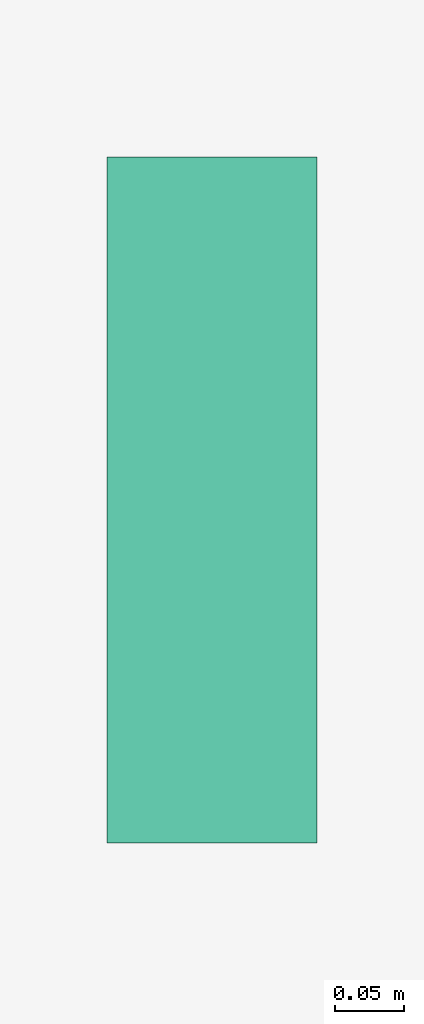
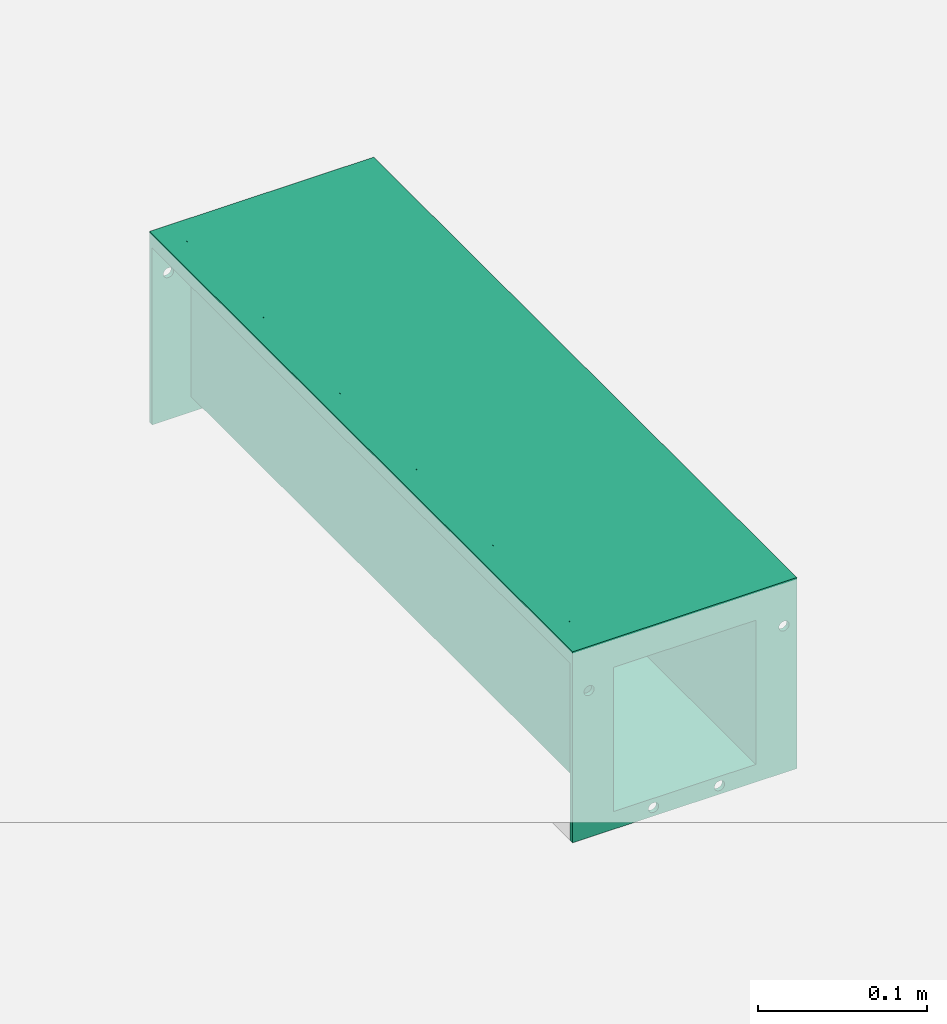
# One storey, part 2 of 2: 1 flow terminal.
"""IFC2X3 building model written with IfcOpenShell, lengths in millimetres."""

from ifc_helpers import new_model, entity, si_unit, converted_unit, direction, frame, frame_2d, origin, origin_2d_with_axis, place, context, subcontext, project, spatial, polyline, circle_curve, parameter, trimmed, segment, composite_curve, rectangle, outline, extrude, source, transform, mapped, material, material_list, element, save


model = new_model("IFC2X3")

# Units and contexts
model_context = context("Model", 3, precision=1e-06, world=origin(), true_north=direction((2.0, 6.12303176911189e-17, 1.0)))
context_of_model = context(None, 3, precision=1e-06, world=origin(), true_north=direction((2.0, 6.12303176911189e-17, 1.0)))
body_context = subcontext(model_context, "Body", "Model", "MODEL_VIEW")
ifc_project = project(units=[si_unit("LENGTHUNIT", "METRE", prefix="MILLI"), si_unit("AREAUNIT", "SQUARE_METRE", prefix="MILLI"), si_unit("VOLUMEUNIT", "CUBIC_METRE", prefix="MILLI"), converted_unit("PLANEANGLEUNIT", "DEGREE", entity("IfcRatioMeasure", 0.0174532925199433), si_unit("PLANEANGLEUNIT", "RADIAN"), dimensions=[0, 0, 0, 0, 0, 0, 0]), si_unit("TIMEUNIT", "SECOND")], contexts=[model_context, context_of_model])

# Site, building, storey
site_placement = place(None, origin())
site = spatial("IfcSite", under=ifc_project, at=site_placement, Name="Default", CompositionType="ELEMENT")
building_placement = place(site_placement, origin())
building = spatial("IfcBuilding", under=site, at=building_placement, CompositionType="ELEMENT")
storey_placement = place(building_placement, origin())
storey = spatial("IfcBuildingStorey", under=building, at=storey_placement, Name="Level 1", CompositionType="ELEMENT", Elevation=0.0)

# Flow terminal
ifc_material_1 = material(Name="Stainless Steel AISI 304")
ifc_material_2 = material(Name="Polystyrene, High Impact (F)")
ifc_material_list = material_list([ifc_material_1, ifc_material_2])
shared_shape = source(origin(), body_context, "Body", "SweptSolid", [
    extrude(rectangle(XDim=500.0, YDim=124.999917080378, at=origin_2d_with_axis()), frame((4.14598109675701e-05, 250.0, -21.0), z_axis=(0.0, 0.0, 1.0), x_axis=(0.0, 1.0, 0.0)), (0.0, 0.0, 1.0), 20.9999999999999),
    extrude(outline(polyline([(-76.5000276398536, -50.8000000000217), (-62.4999447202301, -50.8000000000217), (-62.4999447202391, -29.8000000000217), (-48.499944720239, -29.8000000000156), (-48.4999447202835, 74.1999999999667), (48.4999723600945, 74.2000000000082), (48.499972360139, -29.7999999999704), (62.4999723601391, -29.7999999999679), (62.4999723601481, -50.7999999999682), (76.4999723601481, -50.7999999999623), (76.4999723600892, 87.0), (-76.5000276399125, 87.0), (-76.5000276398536, -50.8000000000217)]), holes=[composite_curve([segment(trimmed(circle_curve(frame_2d((67.7349848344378, -18.9014274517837), x_axis=(1.0, 0.0)), 3.5), [parameter(0.0)], [parameter(180.0)], True, "PARAMETER"), False, "CONTINUOUS"), segment(trimmed(circle_curve(frame_2d((67.7349848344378, -18.9014274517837), x_axis=(1.0, 0.0)), 3.5), [parameter(180.0)], [parameter(360.0)], True, "PARAMETER"), False, "CONTINUOUS")], self_intersect=False), composite_curve([segment(trimmed(circle_curve(frame_2d((23.7349848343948, 80.9218749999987), x_axis=(1.0, 0.0)), 3.5), [parameter(0.0)], [parameter(180.0)], True, "PARAMETER"), False, "CONTINUOUS"), segment(trimmed(circle_curve(frame_2d((23.7349848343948, 80.9218749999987), x_axis=(1.0, 0.0)), 3.5), [parameter(180.0)], [parameter(360.0)], True, "PARAMETER"), False, "CONTINUOUS")], self_intersect=False), composite_curve([segment(trimmed(circle_curve(frame_2d((-21.2650151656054, 80.9218749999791), x_axis=(1.0, 0.0)), 3.5), [parameter(180.0)], [parameter(360.0)], True, "PARAMETER"), False, "CONTINUOUS"), segment(trimmed(circle_curve(frame_2d((-21.2650151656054, 80.9218749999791), x_axis=(1.0, 0.0)), 3.5), [parameter(360.0)], [parameter(180.0)], True, "PARAMETER"), False, "CONTINUOUS")], self_intersect=False), composite_curve([segment(trimmed(circle_curve(frame_2d((-65.2650151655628, -18.9014274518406), x_axis=(1.0, 0.0)), 3.5), [parameter(179.999999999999)], [parameter(360.0)], True, "PARAMETER"), False, "CONTINUOUS"), segment(trimmed(circle_curve(frame_2d((-65.2650151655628, -18.9014274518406), x_axis=(1.0, 0.0)), 3.5), [parameter(0.0)], [parameter(180.0)], True, "PARAMETER"), False, "CONTINUOUS")], self_intersect=False)]), frame((2.7639875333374e-05, 497.0, -50.8000000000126), z_axis=(0.0, 1.0, 0.0), x_axis=(1.0, 0.0, 0.0)), (0.0, 0.0, 1.0), 2.99999999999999),
    extrude(outline(polyline([(-76.499958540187, -50.80000137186), (-62.4999585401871, -50.80000137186), (-62.4999585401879, -29.8000013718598), (-48.4999585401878, -29.8000013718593), (-48.499958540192, 74.1999986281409), (48.499958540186, 74.1999986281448), (48.4999585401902, -29.8000013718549), (62.4999585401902, -29.8000013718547), (62.4999585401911, -50.800001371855), (76.4999585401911, -50.8000013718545), (76.4999585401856, 87.0000068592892), (-76.4999585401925, 87.0000068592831), (-76.499958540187, -50.80000137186)]), holes=[composite_curve([segment(trimmed(circle_curve(frame_2d((67.7349710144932, -18.9014288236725), x_axis=(1.0, 0.0)), 3.5), [parameter(0.0)], [parameter(180.0)], True, "PARAMETER"), False, "CONTINUOUS"), segment(trimmed(circle_curve(frame_2d((67.7349710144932, -18.9014288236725), x_axis=(1.0, 0.0)), 3.5), [parameter(180.0)], [parameter(360.0)], True, "PARAMETER"), False, "CONTINUOUS")], self_intersect=False), composite_curve([segment(trimmed(circle_curve(frame_2d((23.7349710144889, 80.9218818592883), x_axis=(1.0, 0.0)), 3.5), [parameter(0.0)], [parameter(180.0)], True, "PARAMETER"), False, "CONTINUOUS"), segment(trimmed(circle_curve(frame_2d((23.7349710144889, 80.9218818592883), x_axis=(1.0, 0.0)), 3.5), [parameter(180.0)], [parameter(359.999999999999)], True, "PARAMETER"), False, "CONTINUOUS")], self_intersect=False), composite_curve([segment(trimmed(circle_curve(frame_2d((-21.2650289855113, 80.9218818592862), x_axis=(1.0, 0.0)), 3.5), [parameter(180.0)], [parameter(360.0)], True, "PARAMETER"), False, "CONTINUOUS"), segment(trimmed(circle_curve(frame_2d((-21.2650289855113, 80.9218818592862), x_axis=(1.0, 0.0)), 3.5), [parameter(360.0)], [parameter(180.0)], True, "PARAMETER"), False, "CONTINUOUS")], self_intersect=False), composite_curve([segment(trimmed(circle_curve(frame_2d((-65.2650289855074, -18.9014288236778), x_axis=(1.0, 0.0)), 3.5), [parameter(180.0)], [parameter(0.0)], True, "PARAMETER"), False, "CONTINUOUS"), segment(trimmed(circle_curve(frame_2d((-65.2650289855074, -18.9014288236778), x_axis=(1.0, 0.0)), 3.5), [parameter(0.0)], [parameter(180.0)], True, "PARAMETER"), False, "CONTINUOUS")], self_intersect=False)]), frame((4.14598109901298e-05, 0.0, -50.8000013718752), z_axis=(0.0, 1.0, 0.0), x_axis=(1.0, 0.0, 0.0)), (0.0, 0.0, 1.0), 3.0),
    extrude(outline(polyline([(-30.1243423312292, -62.4999585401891), (-30.1243423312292, -76.499958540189), (-20.1243423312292, -76.499958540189), (-20.1243423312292, -74.999958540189), (-28.6243423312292, -74.999958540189), (-28.6243423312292, -63.9999585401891), (-7.62434233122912, -63.9999585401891), (-7.6243423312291, -49.999958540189), (96.3717116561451, -49.999958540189), (96.3717116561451, 49.999958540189), (-7.62434233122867, 49.999958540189), (-7.62434233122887, 63.999958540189), (-28.624342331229, 63.9999585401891), (-28.6243423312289, 74.9999585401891), (-20.1243423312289, 74.9999585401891), (-20.1243423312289, 76.4999585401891), (-30.1243423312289, 76.4999585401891), (-30.124342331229, 62.4999585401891), (-9.12434233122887, 62.499958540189), (-9.12434233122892, 48.499958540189), (94.8717116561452, 48.499958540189), (94.8717116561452, -48.499958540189), (-9.12434233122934, -48.499958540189), (-9.12434233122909, -62.4999585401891), (-30.1243423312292, -62.4999585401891)])), frame((4.14598110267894e-05, 3.0, -30.1282883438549), z_axis=(0.0, -1.0, 0.0), x_axis=(0.0, 0.0, -1.0)), (0.0, 0.0, -1.0), 494.0),
    extrude(rectangle(XDim=497.0, YDim=11.0, at=origin_2d_with_axis()), frame((69.5000000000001, 251.5, -10.0), z_axis=(0.0, 0.0, 1.0), x_axis=(0.0, 1.0, 0.0)), (0.0, 0.0, 1.0), 8.50000000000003),
    extrude(rectangle(XDim=497.0, YDim=10.9999999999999, at=origin_2d_with_axis()), frame((-69.499917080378, 251.5, -10.0), z_axis=(0.0, 0.0, 1.0), x_axis=(0.0, 1.0, 0.0)), (0.0, 0.0, 1.0), 8.50000000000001),
])
flow_terminal_placement = place(storey_placement, frame((-147.883287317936, -204.664192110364, 0.0)))
element("IfcFlowTerminal", 1, at=flow_terminal_placement, inside=storey, material=ifc_material_list, Name="ACO BD Modular 125 Level Invert Straight Channels:105124 - Straight Channel - 500mm LG - Invert Depth 125mm:105124 - Straight Channel - 500mm LG - Invert Depth 125mm", ObjectType="105124 - Straight Channel - 500mm LG - Invert Depth 125mm", context=body_context, shape_type="MappedRepresentation", body=[
    mapped(shared_shape, transform((0.0, 0.0, 0.0), scale=1.0)),
])

save(model, "model.ifc")
